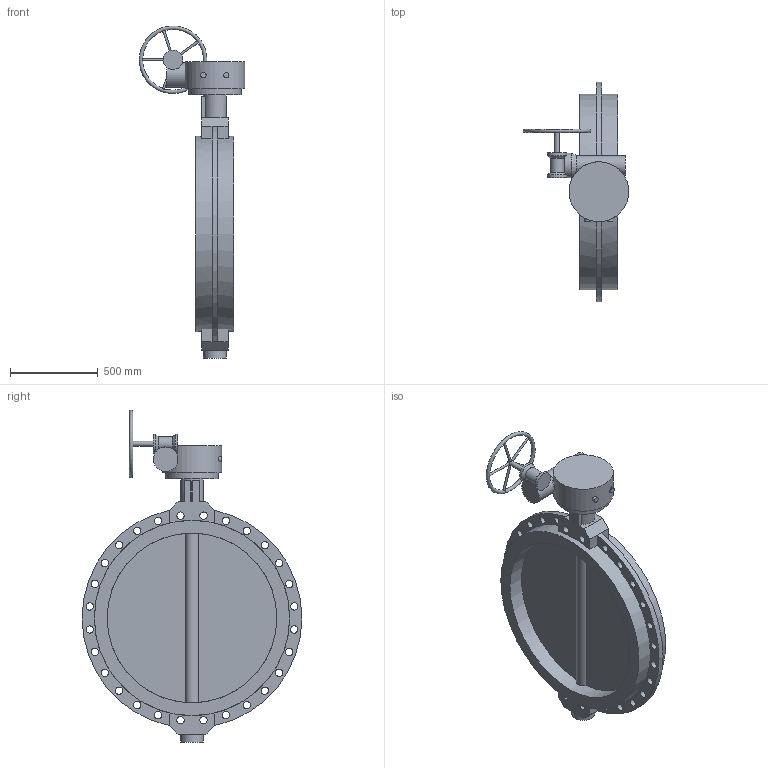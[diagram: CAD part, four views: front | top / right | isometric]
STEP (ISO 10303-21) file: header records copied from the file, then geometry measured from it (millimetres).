
FILE_DESCRIPTION(('STEP AP203'), '1');
FILE_NAME('Çàòâîð 017W.Z(÷óãóí) DN1000 PN16 ðåäóêòîð', '', ('UNSPECIFIED'), ('UNSPECIFIED'), 'ASCON STEP Converter 1.6', 'ASCON Math Kernel', '');
FILE_SCHEMA(('CONFIG_CONTROL_DESIGN'));
Length unit declared in the file: millimetre
Bounding box: 600.48 x 1250 x 1886.98 mm (x, y, z)
Volume: 112366219.1 mm3; surface area: 4714497 mm2
Topology: 1 solids, 1 shells, 746 faces, 2086 edges, 1387 vertices
Faces by surface type: cylinder 551, plane 191, cone 3, torus 1
Full cylindrical faces by diameter (mm): 12 x5, 14 x8, 18 x8, 28 x1, 30 x2, 42 x28, 110 x3, 130 x2, 140 x1, 300 x1, 340 x1, 965 x2, 1110 x2
Entity records: 33217 total; most frequent: CARTESIAN_POINT 7092, DIRECTION 4587, ORIENTED_EDGE 4036, EDGE_CURVE 2018, AXIS2_PLACEMENT_3D 1850, VERTEX_POINT 1386, CIRCLE 1103, EDGE_LOOP 922
